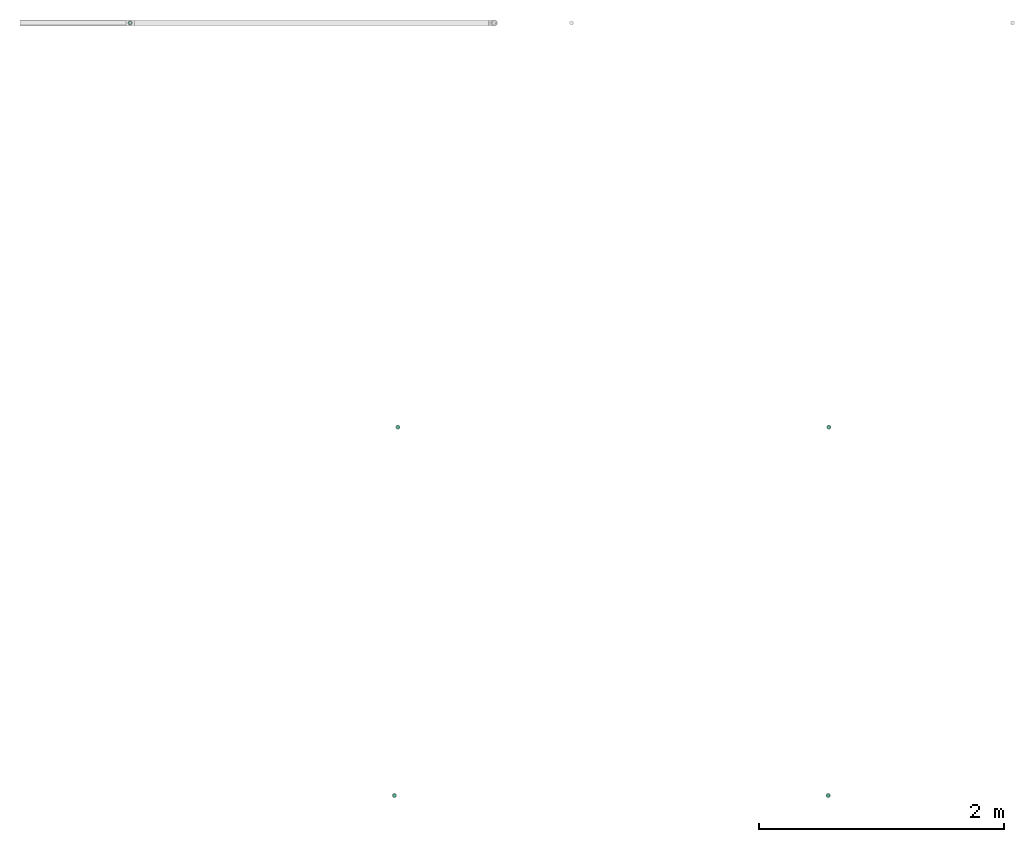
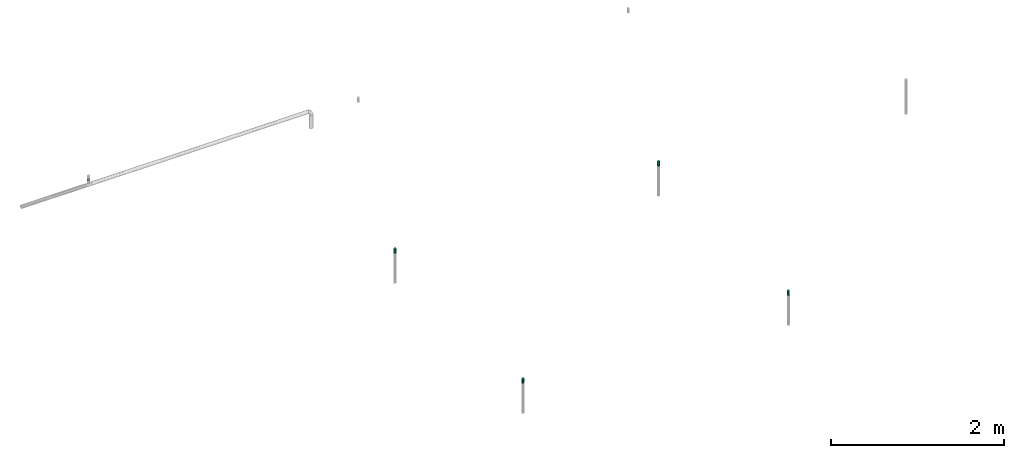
# One storey, part 4 of 14: 5 flow fittings, 4 flow terminals.
"""IFC2X3 building model written with IfcOpenShell, lengths in millimetres."""

import ifcopenshell
import ifcopenshell.guid

model = None  # the IFC model being written
_history = None  # IfcOwnerHistory: only IFC2X3 demands one
_inside = {}  # id of a spatial element -> (the spatial element, [elements in it])
_under = {}  # id of a project, library or spatial element -> (it, [spatial elements below it])
_declared = {}  # id of a project -> (the project, [libraries it declares])
_typed = {}  # id of a type object -> (the type object, [elements of that type])
_made_of = {}  # id of a material, layer set ... -> (it, [elements and type objects made of it])


def new_model(schema):
    """Start an empty IFC model of exactly this schema.

    Asked for "IFC4X3", IfcOpenShell would pick the latest addendum, in which some entities
    have other attributes; the version numbers below select the first issue.
    IFC2X3 requires an IfcOwnerHistory on every rooted entity: one is made here for all.
    """
    global model, _history
    if schema == "IFC4X3":
        model = ifcopenshell.file(schema_version=(4, 3, 0, 0))
    else:
        model = ifcopenshell.file(schema=schema)
    _inside.clear()
    _under.clear()
    _declared.clear()
    _typed.clear()
    _made_of.clear()
    _history = None
    if model.schema == "IFC2X3":
        org = make("IfcOrganization", Name="unknown")
        user = make(
            "IfcPersonAndOrganization",
            ThePerson=make("IfcPerson", FamilyName="unknown"),
            TheOrganization=org,
        )
        app = make(
            "IfcApplication",
            ApplicationDeveloper=org,
            Version="unknown",
            ApplicationFullName="unknown",
            ApplicationIdentifier="unknown",
        )
        _history = make(
            "IfcOwnerHistory",
            OwningUser=user,
            OwningApplication=app,
            ChangeAction="ADDED",
            CreationDate=0,
        )
    return model


def make(cls, **values):
    """One entity of the class cls with the attributes given. An attribute that is None is left unset."""
    return model.create_entity(
        cls, **{name: value for name, value in values.items() if value is not None}
    )


def entity(cls, *values):
    """Any entity or typed value of the class cls, its attributes in the order of the schema. None: left unset."""
    e = model.create_entity(cls)
    for i, value in enumerate(values):
        if value is not None:
            e[i] = value
    return e


def rooted(cls, **values):
    """An entity with a GlobalId (a new one), such as an element, a storey or a relation."""
    return make(cls, GlobalId=ifcopenshell.guid.new(), OwnerHistory=_history, **values)


def si_unit(unit_type, name, prefix=None):
    """IfcSIUnit, for example si_unit("LENGTHUNIT", "METRE", prefix="MILLI")."""
    return make("IfcSIUnit", UnitType=unit_type, Prefix=prefix, Name=name)


def converted_unit(unit_type, name, factor, base, dimensions=None, offset=None):
    """IfcConversionBasedUnit, such as the inch: factor (a typed value) times the base unit."""
    return make(
        "IfcConversionBasedUnit"
        if offset is None
        else "IfcConversionBasedUnitWithOffset",
        ConversionOffset=offset,
        Dimensions=None
        if dimensions is None
        else entity("IfcDimensionalExponents", *dimensions),
        UnitType=unit_type,
        Name=name,
        ConversionFactor=make(
            "IfcMeasureWithUnit", ValueComponent=factor, UnitComponent=base
        ),
    )


def derived_unit(unit_type, elements):
    """IfcDerivedUnit: a product of units, each with its exponent."""
    return make(
        "IfcDerivedUnit",
        Elements=[
            make("IfcDerivedUnitElement", Unit=unit, Exponent=power)
            for unit, power in elements
        ],
        UnitType=unit_type,
    )


def assignment(units):
    """IfcUnitAssignment: the units of a project."""
    return None if units is None else make("IfcUnitAssignment", Units=units)


def point(xyz):
    """IfcCartesianPoint."""
    return None if xyz is None else make("IfcCartesianPoint", Coordinates=xyz)


def direction(xyz):
    """IfcDirection."""
    return None if xyz is None else make("IfcDirection", DirectionRatios=xyz)


def frame(location, z_axis=None, x_axis=None):
    """IfcAxis2Placement3D, a coordinate frame: its origin and axes. An axis left out is left unset."""
    return make(
        "IfcAxis2Placement3D",
        Location=point(location),
        Axis=direction(z_axis),
        RefDirection=direction(x_axis),
    )


def origin_with_axes():
    """The frame at (0, 0, 0) with the z axis (0, 0, 1) and the x axis (1, 0, 0) written out."""
    return frame((0.0, 0.0, 0.0), z_axis=(0.0, 0.0, 1.0), x_axis=(1.0, 0.0, 0.0))


def place(relative_to, where):
    """IfcLocalPlacement: puts the frame where relative to a parent placement (None: the world)."""
    return make(
        "IfcLocalPlacement", PlacementRelTo=relative_to, RelativePlacement=where
    )


def context(
    kind, dimensions, precision=None, world=None, true_north=None, identifier=None
):
    """IfcGeometricRepresentationContext, for example the 3D "Model" context."""
    return make(
        "IfcGeometricRepresentationContext",
        ContextIdentifier=identifier,
        ContextType=kind,
        CoordinateSpaceDimension=dimensions,
        Precision=precision,
        WorldCoordinateSystem=world,
        TrueNorth=true_north,
    )


def subcontext(parent, identifier, kind, view, scale=None):
    """IfcGeometricRepresentationSubContext, for example "Body" below "Model"."""
    return make(
        "IfcGeometricRepresentationSubContext",
        ContextIdentifier=identifier,
        ContextType=kind,
        ParentContext=parent,
        TargetScale=scale,
        TargetView=view,
    )


def project(units=None, contexts=None):
    """IfcProject with its units and contexts."""
    return rooted(
        "IfcProject",
        Name="project",
        RepresentationContexts=contexts,
        UnitsInContext=assignment(units),
    )


def spatial(cls, under=None, at=None, **own):
    """A site, building, storey or space (cls), placed at a placement, below another one or the project."""
    s = rooted(cls, ObjectPlacement=at, **own)
    if under is not None:
        _under.setdefault(under.id(), (under, []))[1].append(s)
    return s


def faces_of(points, faces, orient=None, outer=None):
    """IfcFace entities. A face is a list of loops; a loop is a list of indices into points, from 0.

    orient and outer hold one flag for each loop. By default every Orientation is true, the
    first loop of a face is its IfcFaceOuterBound and the others are IfcFaceBound.
    """
    made = []
    for i, loops in enumerate(faces):
        bounds = []
        for j, loop in enumerate(loops):
            is_outer = j == 0 if outer is None else outer[i][j]
            bounds.append(
                make(
                    "IfcFaceOuterBound" if is_outer else "IfcFaceBound",
                    Bound=make("IfcPolyLoop", Polygon=[points[k] for k in loop]),
                    Orientation=True if orient is None else orient[i][j],
                )
            )
        made.append(make("IfcFace", Bounds=bounds))
    return made


def open_shell(faces, orient=None, outer=None):
    """The faces of one IfcOpenShell. surface_model builds it on its shared points."""
    return ("IfcOpenShell", faces, orient, outer)


def surface_model(cls, points, shells):
    """IfcFaceBasedSurfaceModel or IfcShellBasedSurfaceModel (cls): surfaces that need not close."""
    shared = [point(p) for p in points]
    made = [make(c, CfsFaces=faces_of(shared, fs, o, b)) for c, fs, o, b in shells]
    if cls == "IfcFaceBasedSurfaceModel":
        return make(cls, FbsmFaces=made)
    return make(cls, SbsmBoundary=made)


def shape(context_of_items, identifier, shape_type, items):
    """IfcShapeRepresentation: the items that make up one representation, for example the "Body"."""
    return make(
        "IfcShapeRepresentation",
        ContextOfItems=context_of_items,
        RepresentationIdentifier=identifier,
        RepresentationType=shape_type,
        Items=items,
    )


def source(mapping_origin, context_of_items, identifier, shape_type, items):
    """IfcRepresentationMap: a shape defined once, which mapped items show again and again."""
    return make(
        "IfcRepresentationMap",
        MappingOrigin=mapping_origin,
        MappedRepresentation=shape(context_of_items, identifier, shape_type, items),
    )


def transform(
    local_origin,
    x_axis=None,
    y_axis=None,
    z_axis=None,
    scale=None,
    scale2=None,
    scale3=None,
    uniform=True,
):
    """IfcCartesianTransformationOperator3D, or its non-uniform kind. x_axis, y_axis, z_axis: its Axis1, 2, 3."""
    if uniform:
        return make(
            "IfcCartesianTransformationOperator3D",
            Axis1=direction(x_axis),
            Axis2=direction(y_axis),
            LocalOrigin=point(local_origin),
            Scale=scale,
            Axis3=direction(z_axis),
        )
    return make(
        "IfcCartesianTransformationOperator3DnonUniform",
        Axis1=direction(x_axis),
        Axis2=direction(y_axis),
        LocalOrigin=point(local_origin),
        Scale=scale,
        Axis3=direction(z_axis),
        Scale2=scale2,
        Scale3=scale3,
    )


def mapped(mapping_source, mapping_target):
    """IfcMappedItem: shows the shape of a source again, moved by a transform."""
    return make(
        "IfcMappedItem", MappingSource=mapping_source, MappingTarget=mapping_target
    )


def made_of(thing, what):
    """Note that an element or type object is made of a material, layer set ...; save() writes the relation."""
    if what is not None:
        _made_of.setdefault(what.id(), (what, []))[1].append(thing)
    return thing


def type_object(cls, material=None, **own):
    """A type object (cls), such as IfcWallType, which elements share."""
    return made_of(rooted(cls, **own), material)


def element(
    cls,
    number,
    at=None,
    inside=None,
    cuts=None,
    type_object=None,
    material=None,
    context=None,
    identifier="Body",
    shape_type=None,
    held_by="IfcProductDefinitionShape",
    body=None,
    shapes=None,
    **own,
):
    """One element of the class cls, such as IfcWall. Its Tag is "e" and its number.

    at: its placement. inside: the storey or other place that contains it. cuts: it is an
    opening in that element (IfcRelVoidsElement). A single representation is given by context,
    identifier, shape_type and body (its items); several are given by shapes. held_by: the class
    of the entity that holds the representations. save() writes the other relations.
    """
    e = rooted(cls, Tag="e%d" % number, ObjectPlacement=at, **own)
    if body is not None:
        shapes = [shape(context, identifier, shape_type, body)]
    if shapes is not None:
        e.Representation = make(held_by, Representations=shapes)
    if inside is not None:
        _inside.setdefault(inside.id(), (inside, []))[1].append(e)
    if cuts is not None:
        rooted(
            "IfcRelVoidsElement", RelatingBuildingElement=cuts, RelatedOpeningElement=e
        )
    if type_object is not None:
        _typed.setdefault(type_object.id(), (type_object, []))[1].append(e)
    return made_of(e, material)


def aggregate(whole, parts):
    """IfcRelAggregates: a whole, such as a stair, and the parts it consists of."""
    return rooted("IfcRelAggregates", RelatingObject=whole, RelatedObjects=parts)


def save(model, path):
    """Write the relations noted so far, then the file.

    IfcRelAggregates (storeys below a building ...), IfcRelContainedInSpatialStructure (elements
    in a storey), IfcRelDefinesByType, IfcRelAssociatesMaterial and IfcRelDeclares: one each for
    every whole, place, type object, material and project.
    """
    for whole, parts in _under.values():
        aggregate(whole, parts)
    for where, things in _inside.values():
        rooted(
            "IfcRelContainedInSpatialStructure",
            RelatedElements=things,
            RelatingStructure=where,
        )
    for kind, things in _typed.values():
        rooted("IfcRelDefinesByType", RelatedObjects=things, RelatingType=kind)
    for what, things in _made_of.values():
        rooted("IfcRelAssociatesMaterial", RelatedObjects=things, RelatingMaterial=what)
    for by, libraries in _declared.values():
        rooted("IfcRelDeclares", RelatingContext=by, RelatedDefinitions=libraries)
    model.write(path)


model = new_model("IFC2X3")

# Units and contexts
model_context = context("Model", 3, precision=0.01, world=frame((0.0, 4.29681676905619e-09, 0.0)), true_north=direction((4.01073788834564e-13, 1.0)))
plan_context = context("Plan", 3, precision=0.01, world=frame((0.0, 4.29681676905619e-09, 0.0)), true_north=direction((4.01073788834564e-13, 1.0)))
body_context = subcontext(model_context, "Body", "Model", "MODEL_VIEW")
ifc_project = project(units=[converted_unit("PLANEANGLEUNIT", "DEGREE", entity("IfcPositiveLengthMeasure", 0.0174532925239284), si_unit("PLANEANGLEUNIT", "RADIAN"), dimensions=[0, 0, 0, 0, 0, 0, 0]), si_unit("AREAUNIT", "SQUARE_METRE"), si_unit("LENGTHUNIT", "METRE", prefix="MILLI"), si_unit("MASSUNIT", "GRAM", prefix="KILO"), si_unit("POWERUNIT", "WATT"), si_unit("PRESSUREUNIT", "PASCAL", prefix="KILO"), si_unit("FORCEUNIT", "NEWTON", prefix="KILO"), si_unit("ELECTRICVOLTAGEUNIT", "VOLT"), si_unit("ELECTRICCURRENTUNIT", "AMPERE"), si_unit("THERMODYNAMICTEMPERATUREUNIT", "DEGREE_CELSIUS"), si_unit("TIMEUNIT", "SECOND"), si_unit("VOLUMEUNIT", "CUBIC_METRE"), derived_unit("LINEARVELOCITYUNIT", [(si_unit("LENGTHUNIT", "METRE"), 1), (si_unit("TIMEUNIT", "SECOND"), -1)]), derived_unit("VOLUMETRICFLOWRATEUNIT", [(si_unit("VOLUMEUNIT", "CUBIC_METRE"), 1), (si_unit("TIMEUNIT", "SECOND"), -1)]), derived_unit("THERMALTRANSMITTANCEUNIT", [(si_unit("POWERUNIT", "WATT"), 1), (si_unit("THERMODYNAMICTEMPERATUREUNIT", "KELVIN"), -1), (si_unit("AREAUNIT", "SQUARE_METRE"), -1)]), derived_unit("SOUNDPRESSUREUNIT", [(si_unit("PRESSUREUNIT", "PASCAL"), 1)])], contexts=[model_context, plan_context])

# Site, building, storey
site_placement = place(None, frame((0.0, -4.29681676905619e-09, 0.0), z_axis=(0.0, 0.0, 1.0), x_axis=(1.0, 0.0, 0.0)))
site = spatial("IfcSite", under=ifc_project, at=site_placement, CompositionType="ELEMENT")
building_placement = place(site_placement, frame((0.0, 4.29681676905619e-09, 0.0), z_axis=(0.0, 0.0, 1.0), x_axis=(1.0, 0.0, 0.0)))
building = spatial("IfcBuilding", under=site, at=building_placement, Name="mc-building", CompositionType="ELEMENT")
storey_placement = place(building_placement, frame((0.0, 0.0, 204000.0), z_axis=(0.0, 0.0, 1.0), x_axis=(1.0, 0.0, 0.0)))
storey = spatial("IfcBuildingStorey", under=building, at=storey_placement, Name="Nivå D", CompositionType="ELEMENT", Elevation=204000.0)

# Flow fittings
pipe_fitting_type = type_object("IfcPipeFittingType", Name="magi_pipe_fe_reducer_centric_short_NOR", PredefinedType="TRANSITION")
shared_shape_1 = source(origin_with_axes(), body_context, "Body", "SurfaceModel", [
    surface_model("IfcShellBasedSurfaceModel", [(14.4, 5.35, -9.26647), (14.4, 0.0, -10.7), (14.4, 2.76936, -10.33541), (14.4, 10.33541, -2.76936), (14.4, 7.56604, -7.56604), (14.4, -5.35, -9.26647), (14.4, 9.26647, -5.35), (14.4, -9.26647, 5.35), (14.4, -2.76936, -10.33541), (14.4, -7.56604, -7.56604), (14.4, -10.33541, -2.76936), (14.4, -9.26647, -5.35), (14.4, 10.33541, 2.76936), (14.4, 10.7, 0.0), (14.4, 9.26647, 5.35), (14.4, 7.56604, 7.56604), (14.4, 2.76936, 10.33541), (14.4, 0.0, 10.7), (14.4, 5.35, 9.26647), (14.4, -10.33541, 2.76936), (14.4, -10.7, 0.0), (14.4, -7.56604, 7.56604), (14.4, -2.76936, 10.33541), (14.4, -5.35, 9.26647), (12.4, 0.0, 10.7), (12.4, 2.76936, 10.33541), (12.4, 5.35, 9.26647), (12.4, 7.56604, 7.56604), (12.4, 9.26647, 5.35), (12.4, 10.33541, 2.76936), (12.4, -10.33541, 2.76936), (12.4, 10.33541, -2.76936), (12.4, -2.76936, 10.33541), (12.4, -7.56604, 7.56604), (12.4, -5.35, 9.26647), (12.4, -9.26647, 5.35), (12.4, -10.33541, -2.76936), (12.4, -10.7, 0.0), (12.4, 2.76936, -10.33541), (12.4, 9.26647, -5.35), (12.4, 7.56604, -7.56604), (12.4, 5.35, -9.26647), (12.4, -7.56604, -7.56604), (12.4, -9.26647, -5.35), (12.4, -5.35, -9.26647), (12.4, 0.0, -10.7), (12.4, -2.76936, -10.33541), (12.4, 10.7, 0.0), (-2.0, 11.9501, 11.9501), (-2.0, 0.0, 16.9), (-2.0, 4.37404, 16.32415), (-2.0, 8.45, 14.63583), (-2.0, 14.63583, 8.45), (-2.0, 16.32415, 4.37404), (-2.0, -16.32415, 4.37404), (-2.0, -8.45, 14.63583), (-2.0, -14.63583, 8.45), (-2.0, -11.9501, 11.9501), (-2.0, -4.37404, 16.32415), (-2.0, -16.32415, -4.37404), (-2.0, -16.9, 0.0), (-2.0, -8.45, -14.63583), (-2.0, 16.32415, -4.37404), (-2.0, 11.9501, -11.9501), (-2.0, 14.63583, -8.45), (-2.0, 8.45, -14.63583), (-2.0, 4.37404, -16.32415), (-2.0, 0.0, -16.9), (-2.0, -11.9501, -11.9501), (-2.0, -14.63583, -8.45), (-2.0, -4.37404, -16.32415), (-2.0, 16.9, 0.0), (0.0, 4.37404, -16.32415), (0.0, 8.45, -14.63583), (0.0, 11.9501, -11.9501), (0.0, 0.0, -16.9), (0.0, 16.32415, -4.37404), (0.0, 16.32415, 4.37404), (0.0, 14.63583, -8.45), (0.0, -8.45, -14.63583), (0.0, -4.37404, -16.32415), (0.0, -11.9501, -11.9501), (0.0, -16.32415, -4.37404), (0.0, -14.63583, -8.45), (0.0, -16.32415, 4.37404), (0.0, 16.9, 0.0), (0.0, 14.63583, 8.45), (0.0, 11.9501, 11.9501), (0.0, 4.37404, 16.32415), (0.0, 8.45, 14.63583), (0.0, 0.0, 16.9), (0.0, -14.63583, 8.45), (0.0, -16.9, 0.0), (0.0, -8.45, 14.63583), (0.0, -11.9501, 11.9501), (0.0, -4.37404, 16.32415), (12.4, 9.3625, -2.31662), (0.0, 14.42505, -5.97505), (0.0, 15.66253, -2.98753), (12.4, -6.6875, -6.94985), (0.0, -13.18758, -8.96258), (0.0, 2.98753, -15.66253), (12.4, 0.0, -9.26647), (12.4, 6.6875, -6.94985), (0.0, 8.96258, -13.18758), (12.4, -9.3625, -2.31662), (0.0, -15.66253, -2.98753), (0.0, -14.42505, -5.97505), (0.0, 5.97505, -14.42505), (0.0, -2.98753, -15.66253), (0.0, -8.96258, -13.18758), (0.0, 13.18758, -8.96258), (12.4, 8.025, -4.63324), (12.4, -2.675, -9.26647), (12.4, 2.675, -9.26647), (0.0, -5.97505, -14.42505), (12.4, -8.025, -4.63324), (12.4, -9.3625, 2.31662), (0.0, -14.42505, 5.97505), (0.0, -15.66253, 2.98753), (12.4, 6.6875, 6.94985), (0.0, 13.18758, 8.96258), (0.0, -2.98753, 15.66253), (12.4, 0.0, 9.26647), (12.4, -6.6875, 6.94985), (0.0, -8.96258, 13.18758), (12.4, 9.3625, 2.31662), (0.0, 15.66253, 2.98753), (0.0, 14.42505, 5.97505), (0.0, -5.97505, 14.42505), (0.0, 2.98753, 15.66253), (0.0, 8.96258, 13.18758), (0.0, -13.18758, 8.96258), (12.4, -8.025, 4.63324), (12.4, 2.675, 9.26647), (12.4, -2.675, 9.26647), (0.0, 5.97505, 14.42505), (12.4, 8.025, 4.63324)], [open_shell([[[0, 1, 2]], [[3, 0, 4]], [[5, 0, 3]], [[3, 4, 6]], [[7, 5, 3]], [[1, 5, 8]], [[1, 0, 5]], [[9, 10, 11]], [[10, 9, 5]], [[5, 7, 10]], [[12, 3, 13]], [[12, 14, 15]], [[3, 15, 7]], [[16, 17, 15]], [[16, 15, 18]], [[7, 15, 17]], [[10, 19, 20]], [[7, 19, 10]], [[21, 22, 23]], [[22, 21, 7]], [[17, 22, 7]], [[3, 12, 15]], [[24, 25, 26]], [[24, 26, 27]], [[27, 28, 29]], [[24, 27, 30]], [[31, 30, 27]], [[32, 33, 34]], [[33, 32, 30]], [[33, 30, 35]], [[32, 24, 30]], [[30, 36, 37]], [[31, 27, 29]], [[36, 30, 31]], [[38, 31, 39]], [[40, 41, 38]], [[40, 38, 39]], [[36, 31, 38]], [[36, 42, 43]], [[42, 36, 44]], [[44, 45, 46]], [[44, 36, 38]], [[38, 45, 44]], [[31, 29, 47]], [[36, 10, 37]], [[43, 11, 36]], [[5, 42, 44]], [[43, 42, 9]], [[8, 44, 46]], [[36, 11, 10]], [[10, 20, 37]], [[8, 5, 44]], [[9, 42, 5]], [[9, 11, 43]], [[1, 8, 46]], [[46, 45, 1]], [[38, 2, 45]], [[41, 0, 38]], [[6, 40, 39]], [[41, 40, 4]], [[3, 39, 31]], [[41, 4, 0]], [[0, 2, 38]], [[13, 3, 31]], [[6, 39, 3]], [[6, 4, 40]], [[47, 13, 31]], [[45, 2, 1]], [[29, 12, 47]], [[28, 14, 29]], [[18, 27, 26]], [[28, 27, 15]], [[16, 26, 25]], [[29, 14, 12]], [[12, 13, 47]], [[16, 18, 26]], [[15, 27, 18]], [[15, 14, 28]], [[17, 16, 25]], [[25, 24, 17]], [[32, 22, 24]], [[34, 23, 32]], [[7, 33, 35]], [[34, 33, 21]], [[19, 35, 30]], [[34, 21, 23]], [[23, 22, 32]], [[20, 19, 30]], [[7, 35, 19]], [[7, 21, 33]], [[37, 20, 30]], [[24, 22, 17]], [[48, 49, 50]], [[48, 50, 51]], [[48, 52, 53]], [[48, 53, 49]], [[49, 53, 54]], [[55, 56, 57]], [[55, 58, 49]], [[56, 55, 49]], [[49, 54, 56]], [[54, 59, 60]], [[54, 53, 61]], [[53, 62, 63]], [[63, 62, 64]], [[63, 65, 66]], [[61, 53, 63]], [[67, 63, 66]], [[59, 68, 69]], [[68, 59, 61]], [[61, 67, 70]], [[59, 54, 61]], [[63, 67, 61]], [[53, 71, 62]], [[72, 73, 74]], [[75, 72, 74]], [[74, 76, 77]], [[76, 74, 78]], [[74, 77, 79]], [[75, 79, 80]], [[75, 74, 79]], [[81, 82, 83]], [[82, 81, 79]], [[79, 84, 82]], [[77, 76, 85]], [[77, 86, 87]], [[77, 87, 88]], [[88, 84, 79]], [[88, 87, 89]], [[84, 88, 90]], [[90, 91, 84]], [[92, 82, 84]], [[91, 93, 94]], [[91, 90, 93]], [[93, 90, 95]], [[79, 77, 88]], [[59, 82, 60]], [[69, 83, 59]], [[79, 68, 61]], [[69, 68, 81]], [[80, 61, 70]], [[59, 83, 82]], [[82, 92, 60]], [[80, 79, 61]], [[81, 68, 79]], [[81, 83, 69]], [[75, 80, 70]], [[70, 67, 75]], [[66, 72, 67]], [[65, 73, 66]], [[78, 63, 64]], [[65, 63, 74]], [[76, 64, 62]], [[65, 74, 73]], [[73, 72, 66]], [[85, 76, 62]], [[78, 64, 76]], [[78, 74, 63]], [[71, 85, 62]], [[67, 72, 75]], [[53, 77, 71]], [[52, 86, 53]], [[89, 48, 51]], [[52, 48, 87]], [[88, 51, 50]], [[53, 86, 77]], [[77, 85, 71]], [[88, 89, 51]], [[87, 48, 89]], [[87, 86, 52]], [[90, 88, 50]], [[50, 49, 90]], [[58, 95, 49]], [[55, 93, 58]], [[91, 57, 56]], [[55, 57, 94]], [[84, 56, 54]], [[55, 94, 93]], [[93, 95, 58]], [[92, 84, 54]], [[91, 56, 84]], [[91, 94, 57]], [[60, 92, 54]], [[49, 95, 90]], [[26, 34, 47]], [[47, 34, 44]], [[44, 41, 47]], [[44, 34, 37]], [[90, 87, 92]], [[92, 94, 90]], [[87, 74, 92]], [[75, 92, 74]], [[81, 92, 75]], [[74, 87, 85]], [[96, 97, 98]], [[81, 99, 100]], [[101, 102, 75]], [[98, 85, 47]], [[74, 103, 104]], [[104, 103, 41]], [[105, 106, 107]], [[41, 108, 104]], [[102, 109, 75]], [[110, 99, 81]], [[47, 96, 98]], [[103, 111, 112]], [[109, 102, 113]], [[37, 92, 106]], [[102, 101, 114]], [[110, 115, 44]], [[96, 112, 97]], [[107, 116, 105]], [[37, 106, 105]], [[113, 115, 109]], [[44, 115, 113]], [[116, 107, 100]], [[108, 41, 114]], [[111, 103, 74]], [[111, 97, 112]], [[99, 110, 44]], [[116, 100, 99]], [[101, 108, 114]], [[117, 118, 119]], [[87, 120, 121]], [[122, 123, 90]], [[119, 92, 37]], [[94, 124, 125]], [[125, 124, 34]], [[126, 127, 128]], [[34, 129, 125]], [[123, 130, 90]], [[131, 120, 87]], [[37, 117, 119]], [[124, 132, 133]], [[130, 123, 134]], [[47, 85, 127]], [[123, 122, 135]], [[131, 136, 26]], [[117, 133, 118]], [[128, 137, 126]], [[47, 127, 126]], [[134, 136, 130]], [[26, 136, 134]], [[137, 128, 121]], [[129, 34, 135]], [[132, 124, 94]], [[132, 118, 133]], [[120, 131, 26]], [[137, 121, 120]], [[122, 129, 135]]])]),
])
for number, where, z_axis, x_axis, name in (
    (1, (583000.0, 576802.46783, 6118.64785000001), (0.0, -1.0, 0.0), (0.0, 0.0, 1.0), "magi_pipe_fe_reducer_centric_short_NOR"),
    (2, (585184.33619, 573505.33925, 6323.54800000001), (0.0, 1.0, 0.0), (0.0, 0.0, 1.0), "magi_pipe_fe_reducer_centric_short_NOR"),
    (3, (588695.46277, 570500.0, 6323.848), (0.0, 1.0, 0.0), (0.0, 0.0, 1.0), "magi_pipe_fe_reducer_centric_short_NOR"),
    (4, (588700.0, 573505.33925, 6323.54800000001), (0.0, 1.0, 0.0), (0.0, 0.0, 1.0), "magi_pipe_fe_reducer_centric_short_NOR"),
):
    element("IfcFlowFitting", number, at=place(storey_placement, frame(where, z_axis=z_axis, x_axis=x_axis)), inside=storey, type_object=pipe_fitting_type, Name=name, context=body_context, shape_type="MappedRepresentation", body=[
        mapped(shared_shape_1, transform((0.0, 0.0, 0.0), scale=1.0)),
    ])
shared_shape_2 = source(origin_with_axes(), body_context, "Body", "SurfaceModel", [
    surface_model("IfcShellBasedSurfaceModel", [(14.4, 4.37404, -16.32415), (14.4, 8.45, -14.63583), (14.4, 11.9501, -11.9501), (14.4, -8.45, -14.63583), (14.4, 16.32415, -4.37404), (14.4, 16.32415, 4.37404), (14.4, 14.63583, -8.45), (14.4, 0.0, -16.9), (14.4, -4.37404, -16.32415), (14.4, -11.9501, -11.9501), (14.4, -16.32415, -4.37404), (14.4, -14.63583, -8.45), (14.4, -16.32415, 4.37404), (14.4, 16.9, 0.0), (14.4, 14.63583, 8.45), (14.4, 11.9501, 11.9501), (14.4, 4.37404, 16.32415), (14.4, 8.45, 14.63583), (14.4, 0.0, 16.9), (14.4, -14.63583, 8.45), (14.4, -16.9, 0.0), (14.4, -8.45, 14.63583), (14.4, -11.9501, 11.9501), (14.4, -4.37404, 16.32415), (12.4, 4.37404, 16.32415), (12.4, -14.63583, 8.45), (12.4, 0.0, 16.9), (12.4, 16.32415, 4.37404), (12.4, 8.45, 14.63583), (12.4, 11.9501, 11.9501), (12.4, 14.63583, 8.45), (12.4, -8.45, 14.63583), (12.4, -11.9501, 11.9501), (12.4, -4.37404, 16.32415), (12.4, -16.32415, 4.37404), (12.4, -16.32415, -4.37404), (12.4, -16.9, 0.0), (12.4, -8.45, -14.63583), (12.4, 16.32415, -4.37404), (12.4, 11.9501, -11.9501), (12.4, 14.63583, -8.45), (12.4, 8.45, -14.63583), (12.4, 4.37404, -16.32415), (12.4, 0.0, -16.9), (12.4, -11.9501, -11.9501), (12.4, -14.63583, -8.45), (12.4, -4.37404, -16.32415), (12.4, 16.9, 0.0), (-2.0, 10.33541, 2.76936), (-2.0, 0.0, 10.7), (-2.0, 2.76936, 10.33541), (-2.0, 7.56604, 7.56604), (-2.0, 5.35, 9.26647), (-2.0, 9.26647, 5.35), (-2.0, -9.26647, 5.35), (-2.0, -2.76936, 10.33541), (-2.0, -7.56604, 7.56604), (-2.0, -5.35, 9.26647), (-2.0, -10.33541, 2.76936), (-2.0, -10.33541, -2.76936), (-2.0, -10.7, 0.0), (-2.0, 10.33541, -2.76936), (-2.0, 7.56604, -7.56604), (-2.0, 9.26647, -5.35), (-2.0, 5.35, -9.26647), (-2.0, -5.35, -9.26647), (-2.0, 2.76936, -10.33541), (-2.0, -7.56604, -7.56604), (-2.0, -9.26647, -5.35), (-2.0, 0.0, -10.7), (-2.0, -2.76936, -10.33541), (-2.0, 10.7, 0.0), (0.0, 5.35, -9.26647), (0.0, 0.0, -10.7), (0.0, 2.76936, -10.33541), (0.0, 10.33541, -2.76936), (0.0, 7.56604, -7.56604), (0.0, -5.35, -9.26647), (0.0, 9.26647, -5.35), (0.0, -9.26647, 5.35), (0.0, -2.76936, -10.33541), (0.0, -7.56604, -7.56604), (0.0, -10.33541, -2.76936), (0.0, -9.26647, -5.35), (0.0, 10.33541, 2.76936), (0.0, 10.7, 0.0), (0.0, 9.26647, 5.35), (0.0, 7.56604, 7.56604), (0.0, 2.76936, 10.33541), (0.0, 0.0, 10.7), (0.0, 5.35, 9.26647), (0.0, -10.33541, 2.76936), (0.0, -10.7, 0.0), (0.0, -7.56604, 7.56604), (0.0, -2.76936, 10.33541), (0.0, -5.35, 9.26647), (0.0, -9.3625, -2.31662), (12.4, -14.42505, -5.97505), (12.4, -15.66253, -2.98753), (0.0, 6.6875, -6.94985), (12.4, 8.96258, -13.18758), (0.0, -6.6875, -6.94985), (12.4, -8.96258, -13.18758), (0.0, 9.3625, -2.31662), (12.4, 15.66253, -2.98753), (12.4, 14.42505, -5.97505), (12.4, -5.97505, -14.42505), (12.4, 5.97505, -14.42505), (0.0, 2.675, -9.26647), (12.4, 13.18758, -8.96258), (0.0, -2.675, -9.26647), (12.4, -13.18758, -8.96258), (0.0, -8.025, -4.63324), (12.4, 2.98753, -15.66253), (0.0, 0.0, -9.26647), (12.4, -2.98753, -15.66253), (0.0, 8.025, -4.63324), (0.0, 9.3625, 2.31662), (12.4, 14.42505, 5.97505), (12.4, 15.66253, 2.98753), (0.0, -6.6875, 6.94985), (12.4, -8.96258, 13.18758), (0.0, 6.6875, 6.94985), (12.4, 8.96258, 13.18758), (0.0, -9.3625, 2.31662), (12.4, -15.66253, 2.98753), (12.4, -14.42505, 5.97505), (12.4, 5.97505, 14.42505), (12.4, -5.97505, 14.42505), (0.0, -2.675, 9.26647), (12.4, -13.18758, 8.96258), (0.0, 2.675, 9.26647), (12.4, 13.18758, 8.96258), (0.0, 8.025, 4.63324), (12.4, -2.98753, 15.66253), (0.0, 0.0, 9.26647), (12.4, 2.98753, 15.66253), (0.0, -8.025, 4.63324)], [open_shell([[[0, 1, 2]], [[3, 0, 2]], [[2, 4, 5]], [[4, 2, 6]], [[2, 5, 3]], [[7, 3, 8]], [[7, 0, 3]], [[9, 10, 11]], [[10, 9, 3]], [[3, 12, 10]], [[5, 4, 13]], [[5, 14, 15]], [[5, 15, 16]], [[16, 12, 3]], [[16, 15, 17]], [[12, 16, 18]], [[18, 19, 12]], [[20, 10, 12]], [[19, 21, 22]], [[19, 18, 21]], [[21, 18, 23]], [[3, 5, 16]], [[24, 25, 26]], [[27, 24, 28]], [[29, 30, 27]], [[29, 27, 28]], [[25, 24, 27]], [[31, 25, 32]], [[31, 33, 26]], [[26, 25, 31]], [[34, 25, 27]], [[34, 35, 36]], [[34, 27, 37]], [[27, 38, 39]], [[39, 38, 40]], [[39, 41, 42]], [[37, 27, 39]], [[42, 43, 39]], [[35, 44, 45]], [[44, 35, 37]], [[37, 43, 46]], [[35, 34, 37]], [[39, 43, 37]], [[38, 27, 47]], [[35, 10, 36]], [[45, 11, 35]], [[3, 44, 37]], [[45, 44, 9]], [[8, 37, 46]], [[35, 11, 10]], [[10, 20, 36]], [[8, 3, 37]], [[9, 44, 3]], [[9, 11, 45]], [[7, 8, 46]], [[46, 43, 7]], [[42, 0, 43]], [[41, 1, 42]], [[6, 39, 40]], [[41, 39, 2]], [[4, 40, 38]], [[41, 2, 1]], [[1, 0, 42]], [[13, 4, 38]], [[6, 40, 4]], [[6, 2, 39]], [[47, 13, 38]], [[43, 0, 7]], [[27, 5, 47]], [[30, 14, 27]], [[17, 29, 28]], [[30, 29, 15]], [[16, 28, 24]], [[27, 14, 5]], [[5, 13, 47]], [[16, 17, 28]], [[15, 29, 17]], [[15, 14, 30]], [[18, 16, 24]], [[24, 26, 18]], [[33, 23, 26]], [[31, 21, 33]], [[19, 32, 25]], [[31, 32, 22]], [[12, 25, 34]], [[31, 22, 21]], [[21, 23, 33]], [[20, 12, 34]], [[19, 25, 12]], [[19, 22, 32]], [[36, 20, 34]], [[26, 23, 18]], [[48, 49, 50]], [[51, 50, 52]], [[51, 53, 48]], [[51, 48, 50]], [[49, 48, 54]], [[55, 56, 57]], [[56, 55, 54]], [[58, 59, 60]], [[54, 55, 49]], [[58, 54, 59]], [[54, 48, 61]], [[59, 54, 61]], [[62, 61, 63]], [[59, 62, 64]], [[61, 62, 59]], [[65, 64, 66]], [[59, 67, 68]], [[67, 59, 65]], [[65, 69, 70]], [[65, 59, 64]], [[66, 69, 65]], [[61, 48, 71]], [[72, 73, 74]], [[75, 72, 76]], [[77, 72, 75]], [[75, 76, 78]], [[79, 77, 75]], [[73, 77, 80]], [[73, 72, 77]], [[81, 82, 83]], [[82, 81, 77]], [[77, 79, 82]], [[84, 75, 85]], [[84, 86, 87]], [[75, 87, 79]], [[88, 89, 87]], [[88, 87, 90]], [[79, 87, 89]], [[82, 91, 92]], [[79, 91, 82]], [[93, 94, 95]], [[94, 93, 79]], [[89, 94, 79]], [[75, 84, 87]], [[59, 82, 60]], [[68, 83, 59]], [[77, 67, 65]], [[68, 67, 81]], [[80, 65, 70]], [[59, 83, 82]], [[82, 92, 60]], [[80, 77, 65]], [[81, 67, 77]], [[81, 83, 68]], [[73, 80, 70]], [[70, 69, 73]], [[66, 74, 69]], [[64, 72, 66]], [[78, 62, 63]], [[64, 62, 76]], [[75, 63, 61]], [[64, 76, 72]], [[72, 74, 66]], [[85, 75, 61]], [[78, 63, 75]], [[78, 76, 62]], [[71, 85, 61]], [[69, 74, 73]], [[48, 84, 71]], [[53, 86, 48]], [[90, 51, 52]], [[53, 51, 87]], [[88, 52, 50]], [[48, 86, 84]], [[84, 85, 71]], [[88, 90, 52]], [[87, 51, 90]], [[87, 86, 53]], [[89, 88, 50]], [[50, 49, 89]], [[55, 94, 49]], [[57, 95, 55]], [[79, 56, 54]], [[57, 56, 93]], [[91, 54, 58]], [[57, 93, 95]], [[95, 94, 55]], [[92, 91, 58]], [[79, 54, 91]], [[79, 93, 56]], [[60, 92, 58]], [[49, 94, 89]], [[29, 26, 39]], [[39, 47, 29]], [[36, 26, 32]], [[36, 44, 43]], [[43, 39, 36]], [[36, 39, 26]], [[92, 95, 77]], [[85, 95, 90]], [[85, 72, 77]], [[85, 77, 95]], [[96, 97, 98]], [[92, 96, 98]], [[99, 100, 72]], [[98, 36, 92]], [[44, 101, 102]], [[101, 77, 102]], [[103, 104, 105]], [[85, 47, 104]], [[77, 106, 102]], [[107, 108, 72]], [[109, 39, 99]], [[106, 77, 110]], [[101, 111, 112]], [[113, 114, 108]], [[100, 99, 39]], [[110, 115, 106]], [[99, 116, 109]], [[100, 107, 72]], [[96, 112, 97]], [[105, 116, 103]], [[85, 104, 103]], [[108, 107, 113]], [[113, 43, 114]], [[116, 105, 109]], [[114, 115, 110]], [[43, 115, 114]], [[111, 101, 44]], [[111, 97, 112]], [[117, 118, 119]], [[85, 117, 119]], [[120, 121, 95]], [[119, 47, 85]], [[29, 122, 123]], [[122, 90, 123]], [[124, 125, 126]], [[92, 36, 125]], [[90, 127, 123]], [[128, 129, 95]], [[130, 32, 120]], [[127, 90, 131]], [[122, 132, 133]], [[134, 135, 129]], [[121, 120, 32]], [[131, 136, 127]], [[120, 137, 130]], [[121, 128, 95]], [[117, 133, 118]], [[126, 137, 124]], [[92, 125, 124]], [[129, 128, 134]], [[134, 26, 135]], [[137, 126, 130]], [[135, 136, 131]], [[26, 136, 135]], [[132, 122, 29]], [[132, 118, 133]]])]),
])
flow_fitting_placement = place(storey_placement, frame((585155.46277, 570500.0, 6336.24799999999), z_axis=(0.0, 1.0, 0.0), x_axis=(0.0, 0.0, -1.0)))
element("IfcFlowFitting", 5, at=flow_fitting_placement, inside=storey, type_object=pipe_fitting_type, Name="magi_pipe_fe_reducer_centric_short_NOR", context=body_context, shape_type="MappedRepresentation", body=[
    mapped(shared_shape_2, transform((0.0, 0.0, 0.0), scale=1.0)),
])

# Flow terminals
fire_suppression_terminal_type = type_object("IfcFireSuppressionTerminalType", Name="SP-15-K80-68DGR-STD-STÅENDE", PredefinedType="NOTDEFINED")
shared_shape_3 = source(origin_with_axes(), body_context, "Body", "SurfaceModel", [
    surface_model("IfcShellBasedSurfaceModel", [(4.1411, -15.45481, 53.0), (8.0, -13.85641, 53.0), (11.31371, -11.31371, 53.0), (-8.0, -13.85641, 53.0), (15.45481, -4.1411, 53.0), (16.0, 0.0, 53.0), (13.85641, -8.0, 53.0), (0.0, -16.0, 53.0), (-4.1411, -15.45481, 53.0), (-13.85641, -8.0, 53.0), (-11.31371, -11.31371, 53.0), (-15.45481, -4.1411, 53.0), (15.45481, 4.1411, 53.0), (13.85641, 8.0, 53.0), (11.31371, 11.31371, 53.0), (-4.1411, 15.45481, 53.0), (8.0, 13.85641, 53.0), (4.1411, 15.45481, 53.0), (0.0, 16.0, 53.0), (-13.85641, 8.0, 53.0), (-15.45481, 4.1411, 53.0), (-16.0, 0.0, 53.0), (-11.31371, 11.31371, 53.0), (-8.0, 13.85641, 53.0), (0.0, 16.0, 0.0), (4.1411, 15.45481, 0.0), (8.0, 13.85641, 0.0), (-4.1411, 15.45481, 0.0), (11.31371, 11.31371, 0.0), (13.85641, 8.0, 0.0), (15.45481, 4.1411, 0.0), (-15.45481, -4.1411, 0.0), (-11.31371, 11.31371, 0.0), (-8.0, 13.85641, 0.0), (-13.85641, 8.0, 0.0), (-15.45481, 4.1411, 0.0), (-16.0, 0.0, 0.0), (4.1411, -15.45481, 0.0), (16.0, 0.0, 0.0), (15.45481, -4.1411, 0.0), (13.85641, -8.0, 0.0), (11.31371, -11.31371, 0.0), (8.0, -13.85641, 0.0), (-8.0, -13.85641, 0.0), (-13.85641, -8.0, 0.0), (-11.31371, -11.31371, 0.0), (0.0, -16.0, 0.0), (-4.1411, -15.45481, 0.0)], [open_shell([[[0, 1, 2]], [[3, 0, 2]], [[4, 5, 2]], [[4, 2, 6]], [[3, 2, 5]], [[7, 3, 8]], [[7, 0, 3]], [[3, 9, 10]], [[9, 3, 11]], [[5, 11, 3]], [[5, 12, 11]], [[12, 13, 14]], [[15, 12, 14]], [[16, 17, 18]], [[14, 16, 15]], [[18, 15, 16]], [[11, 19, 20]], [[21, 11, 20]], [[22, 15, 23]], [[15, 22, 19]], [[19, 11, 15]], [[11, 12, 15]], [[24, 25, 26]], [[27, 24, 26]], [[28, 29, 30]], [[27, 26, 28]], [[27, 28, 31]], [[27, 32, 33]], [[32, 27, 34]], [[34, 31, 35]], [[31, 34, 27]], [[35, 31, 36]], [[28, 30, 31]], [[37, 38, 39]], [[37, 39, 40]], [[41, 42, 37]], [[41, 37, 40]], [[38, 37, 43]], [[44, 43, 45]], [[43, 44, 31]], [[43, 46, 47]], [[43, 31, 38]], [[37, 46, 43]], [[38, 31, 30]], [[11, 31, 44]], [[45, 9, 44]], [[3, 43, 47]], [[45, 43, 10]], [[8, 47, 46]], [[31, 21, 36]], [[31, 11, 21]], [[44, 9, 11]], [[45, 10, 9]], [[3, 10, 43]], [[47, 8, 3]], [[46, 7, 8]], [[0, 37, 42]], [[41, 1, 42]], [[6, 40, 39]], [[41, 40, 2]], [[4, 39, 38]], [[37, 0, 7]], [[42, 1, 0]], [[41, 2, 1]], [[40, 6, 2]], [[4, 6, 39]], [[38, 5, 4]], [[37, 7, 46]], [[12, 38, 30]], [[13, 30, 29]], [[16, 26, 25]], [[17, 25, 24]], [[30, 13, 12]], [[12, 5, 38]], [[28, 14, 13]], [[28, 26, 14]], [[14, 26, 16]], [[25, 17, 16]], [[28, 13, 29]], [[24, 18, 17]], [[15, 27, 33]], [[32, 23, 33]], [[19, 34, 35]], [[32, 34, 22]], [[20, 35, 36]], [[27, 15, 18]], [[33, 23, 15]], [[32, 22, 23]], [[34, 19, 22]], [[20, 19, 35]], [[36, 21, 20]], [[27, 18, 24]]])]),
])
for number, where, z_axis, x_axis in (
    (6, (585184.33619, 573505.33925, 6332.89999999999), (0.0, 0.0, 1.0), (1.0, 0.0, 0.0)),
    (7, (588695.46277, 570500.0, 6333.20000000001), (0.0, 0.0, 1.0), (1.0, 0.0, 0.0)),
    (8, (588700.0, 573505.33925, 6332.89999999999), (0.0, 0.0, 1.0), (1.0, 0.0, 0.0)),
    (9, (585155.46277, 570500.0, 6333.20000000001), (0.0, 0.0, 1.0), (1.0, 0.0, 0.0)),
):
    element("IfcFlowTerminal", number, at=place(storey_placement, frame(where, z_axis=z_axis, x_axis=x_axis)), inside=storey, type_object=fire_suppression_terminal_type, Name="SP-15-K80-68DGR-STD-STÅENDE", context=body_context, shape_type="MappedRepresentation", body=[
        mapped(shared_shape_3, transform((0.0, 0.0, 0.0), scale=1.0)),
    ])

save(model, "model.ifc")
